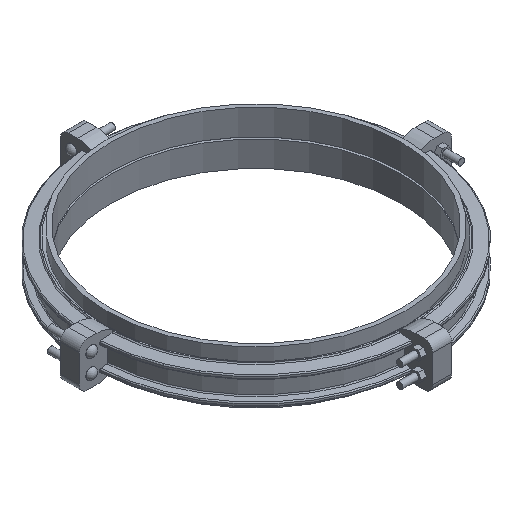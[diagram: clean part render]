
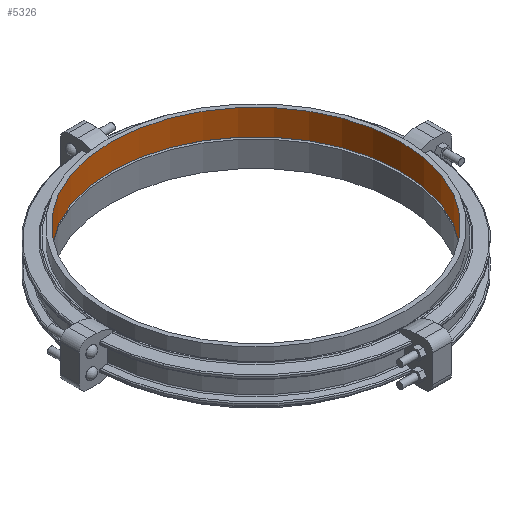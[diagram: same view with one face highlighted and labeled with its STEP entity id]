
A CAD part, isometric view. The second image highlights one B-rep face of the part: STEP entity #5326.
In plain terms, the highlighted cylindrical face has radius 863.6 mm (diameter 1727.2 mm), a full revolution.
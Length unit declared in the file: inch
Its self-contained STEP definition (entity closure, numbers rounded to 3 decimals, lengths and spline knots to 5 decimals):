
#270=CYLINDRICAL_SURFACE('',#5937,34.);
#588=FACE_OUTER_BOUND('',#906,.T.);
#906=EDGE_LOOP('',(#4630,#4631,#4632,#4633,#4634,#4635));
#1291=LINE('',#10065,#1674);
#1674=VECTOR('',#7388,34.);
#1927=CIRCLE('',#5935,34.);
#1928=CIRCLE('',#5936,34.);
#1929=CIRCLE('',#5938,34.);
#1930=CIRCLE('',#5939,34.);
#2431=VERTEX_POINT('',#10059);
#2432=VERTEX_POINT('',#10060);
#2433=VERTEX_POINT('',#10064);
#2434=VERTEX_POINT('',#10066);
#3165=EDGE_CURVE('',#2431,#2432,#1927,.T.);
#3166=EDGE_CURVE('',#2432,#2431,#1928,.T.);
#3167=EDGE_CURVE('',#2432,#2433,#1291,.T.);
#3168=EDGE_CURVE('',#2434,#2433,#1929,.T.);
#3169=EDGE_CURVE('',#2433,#2434,#1930,.T.);
#4630=ORIENTED_EDGE('',*,*,#3165,.T.);
#4631=ORIENTED_EDGE('',*,*,#3167,.T.);
#4632=ORIENTED_EDGE('',*,*,#3168,.F.);
#4633=ORIENTED_EDGE('',*,*,#3169,.F.);
#4634=ORIENTED_EDGE('',*,*,#3167,.F.);
#4635=ORIENTED_EDGE('',*,*,#3166,.T.);
#5326=ADVANCED_FACE('',(#588),#270,.F.);
#5935=AXIS2_PLACEMENT_3D('',#10061,#7382,#7383);
#5936=AXIS2_PLACEMENT_3D('',#10062,#7384,#7385);
#5937=AXIS2_PLACEMENT_3D('',#10063,#7386,#7387);
#5938=AXIS2_PLACEMENT_3D('',#10067,#7389,#7390);
#5939=AXIS2_PLACEMENT_3D('',#10068,#7391,#7392);
#7382=DIRECTION('center_axis',(0.,0.,-1.));
#7383=DIRECTION('ref_axis',(1.,0.,0.));
#7384=DIRECTION('center_axis',(0.,0.,-1.));
#7385=DIRECTION('ref_axis',(1.,0.,0.));
#7386=DIRECTION('center_axis',(0.,0.,-1.));
#7387=DIRECTION('ref_axis',(0.,1.,0.));
#7388=DIRECTION('',(0.,0.,1.));
#7389=DIRECTION('center_axis',(0.,0.,-1.));
#7390=DIRECTION('ref_axis',(1.,0.,0.));
#7391=DIRECTION('center_axis',(0.,0.,-1.));
#7392=DIRECTION('ref_axis',(1.,0.,0.));
#10059=CARTESIAN_POINT('',(0.,34.,0.));
#10060=CARTESIAN_POINT('',(0.,-34.,0.));
#10061=CARTESIAN_POINT('Origin',(0.,0.,0.));
#10062=CARTESIAN_POINT('Origin',(0.,0.,0.));
#10063=CARTESIAN_POINT('Origin',(0.,0.,3.));
#10064=CARTESIAN_POINT('',(0.,-34.,6.));
#10065=CARTESIAN_POINT('',(0.,-34.,3.));
#10066=CARTESIAN_POINT('',(0.,34.,6.));
#10067=CARTESIAN_POINT('Origin',(0.,0.,6.));
#10068=CARTESIAN_POINT('Origin',(0.,0.,6.));
